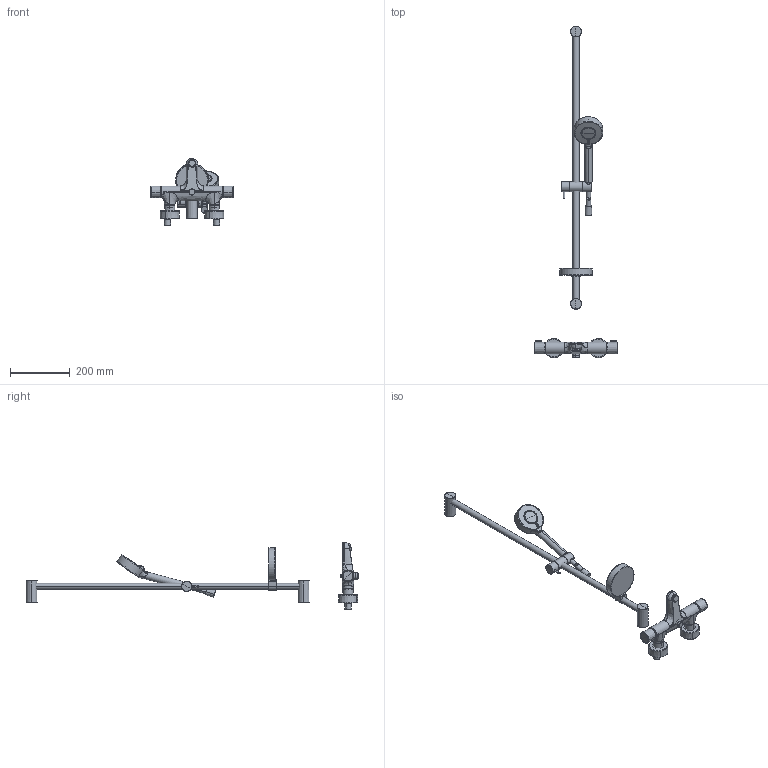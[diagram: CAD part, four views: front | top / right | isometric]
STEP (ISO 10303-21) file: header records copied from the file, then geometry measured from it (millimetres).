
FILE_DESCRIPTION (( 'STEP AP203' ), '1' );
FILE_NAME ('48102131(2021).STEP', '2021-05-18T10:13:45', ( '' ), ( '' ), 'SwSTEP 2.0', 'SolidWorks 2016', '' );
FILE_SCHEMA (( 'CONFIG_CONTROL_DESIGN' ));
Length unit declared in the file: millimetre
Products named in the file (1): 48102131(2021)
Bounding box: 280.49 x 1116.05 x 225.2 mm (x, y, z)
Volume: 1673027 mm3; surface area: 312227.7 mm2
Topology: 25 solids, 25 shells, 676 faces, 1582 edges, 954 vertices
Faces by surface type: bspline 223, cylinder 188, plane 144, torus 55, cone 39, sphere 27
Entity records: 42575 total; most frequent: CARTESIAN_POINT 28970, ORIENTED_EDGE 3092, DIRECTION 2330, EDGE_CURVE 1546, AXIS2_PLACEMENT_3D 958, VERTEX_POINT 942, EDGE_LOOP 698, ADVANCED_FACE 675
